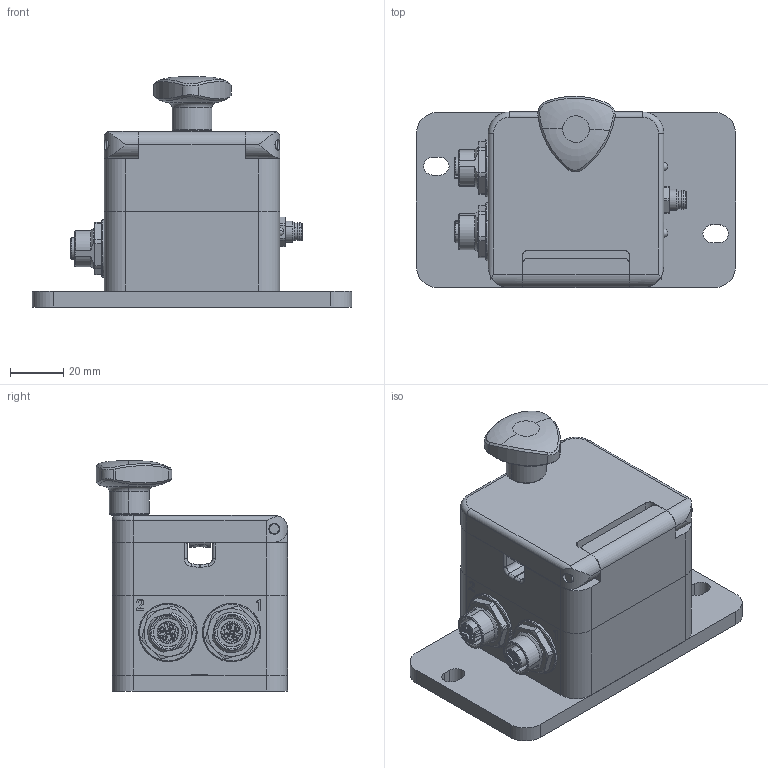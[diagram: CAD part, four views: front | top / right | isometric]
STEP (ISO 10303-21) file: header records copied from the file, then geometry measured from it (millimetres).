
FILE_DESCRIPTION (( 'STEP AP203' ), '1' );
FILE_NAME ('BCU0250_BP.STEP', '2025-10-16T14:02:31', ( '' ), ( '' ), 'SwSTEP 2.0', 'SolidWorks 2023', '' );
FILE_SCHEMA (( 'CONFIG_CONTROL_DESIGN' ));
Length unit declared in the file: inch
Products named in the file (1): BCU0250_BP
Bounding box: 120 x 71.88 x 86.5 mm (x, y, z)
Volume: 214650.8 mm3; surface area: 79005.3 mm2
Topology: 18 solids, 31 shells, 1277 faces, 3150 edges, 1993 vertices
Faces by surface type: plane 445, cylinder 433, bspline 173, cone 151, torus 66, sphere 9
Entity records: 47123 total; most frequent: CARTESIAN_POINT 17751, ORIENTED_EDGE 6204, DIRECTION 5817, EDGE_CURVE 3102, AXIS2_PLACEMENT_3D 2204, VERTEX_POINT 1981, EDGE_LOOP 1435, VECTOR 1409
